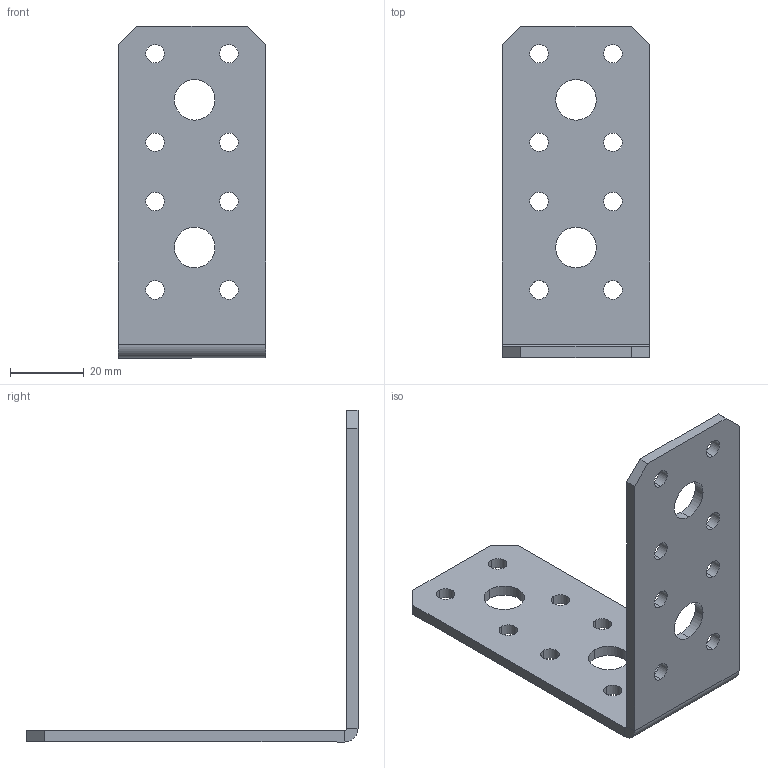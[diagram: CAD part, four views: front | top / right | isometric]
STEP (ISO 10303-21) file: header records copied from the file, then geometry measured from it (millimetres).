
FILE_DESCRIPTION (( 'STEP AP203' ), '1' );
FILE_NAME ('993.STEP', '2020-10-20T09:47:18', ( '' ), ( '' ), 'SwSTEP 2.0', 'SolidWorks 2013', '' );
FILE_SCHEMA (( 'CONFIG_CONTROL_DESIGN' ));
Length unit declared in the file: millimetre
Products named in the file (1): 993
Bounding box: 40 x 89.92 x 89.92 mm (x, y, z)
Volume: 18873.3 mm3; surface area: 15011 mm2
Topology: 1 solids, 1 shells, 58 faces, 160 edges, 104 vertices
Faces by surface type: cylinder 42, plane 16
Entity records: 2041 total; most frequent: DIRECTION 362, CARTESIAN_POINT 323, ORIENTED_EDGE 320, EDGE_CURVE 160, AXIS2_PLACEMENT_3D 143, VERTEX_POINT 104, EDGE_LOOP 98, CIRCLE 84
